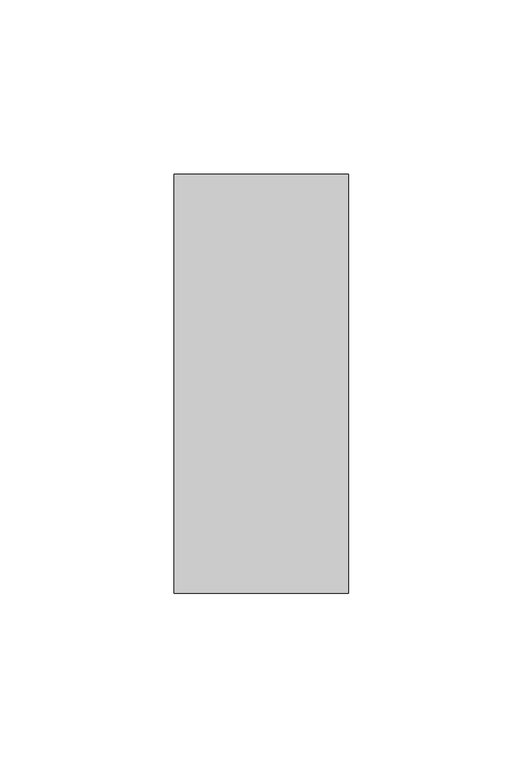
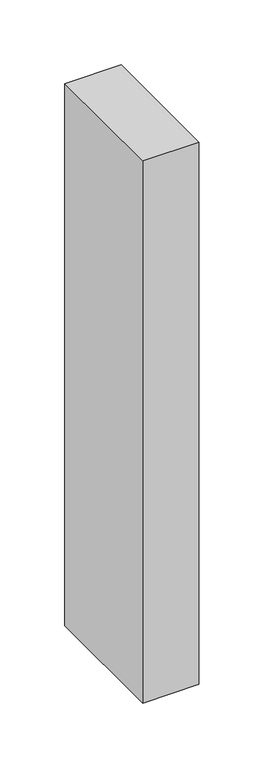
"""IFC4 building model written with IfcOpenShell, lengths in millimetres: member geometry, Прямоугольный импост : 50х120 мм."""

from ifc_helpers import new_model, si_unit, frame, origin, place, context, project, spatial, polyline, outline, extrude, source, transform, mapped, element, save


def member_8805ff32(model_context):
    return source(origin(), model_context, "Body", "SweptSolid", [
        extrude(outline(polyline([(0.0, 60.0), (0.0, -60.0), (-50.0, -60.0), (-50.0, 60.0), (0.0, 60.0)])), frame((0.0, 0.0, -510.0175397), z_axis=(0.0, 0.0, 1.0), x_axis=(1.0, 0.0, 0.0)), (0.0, 0.0, 1.0), 510.0175397),
    ])


if __name__ == "__main__":
    model = new_model("IFC4")
    model_context = context("Model", 3, world=origin())
    ifc_project = project(units=[si_unit("LENGTHUNIT", "METRE", prefix="MILLI")], contexts=[model_context])
    site = spatial("IfcSite", under=ifc_project)
    building = spatial("IfcBuilding", under=site)
    placement = place(None, origin())
    member_shape = member_8805ff32(model_context)
    element("IfcMember", 1, ObjectType="Прямоугольный импост : 50х120 мм", at=placement, inside=building, context=model_context, shape_type="MappedRepresentation", body=[
        mapped(member_shape, transform((0.0, 0.0, 0.0), x_axis=(1.0, 0.0, 0.0), y_axis=(0.0, 1.0, 0.0), z_axis=(0.0, 0.0, 1.0))),
    ])
    save(model, "model.ifc")
